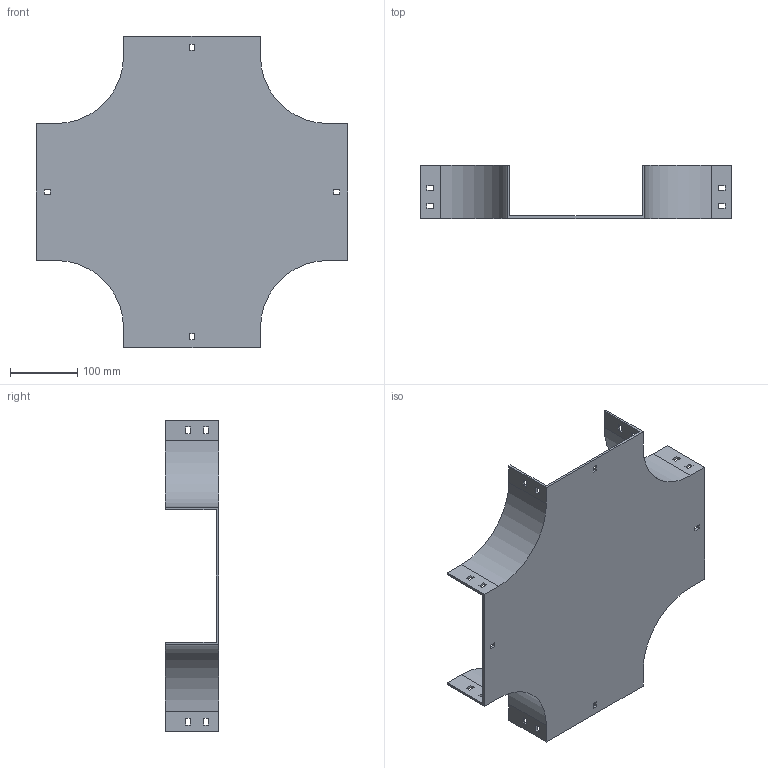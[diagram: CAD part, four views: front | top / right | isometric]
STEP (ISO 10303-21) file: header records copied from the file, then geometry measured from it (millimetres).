
FILE_DESCRIPTION (( 'STEP AP214' ), '1' );
FILE_NAME ('17F1C200.step', '2025-02-21T13:06:13', ( '' ), ( '' ), 'SwSTEP 2.0', 'SolidWorks 2023', '' );
FILE_SCHEMA (( 'AUTOMOTIVE_DESIGN' ));
Length unit declared in the file: millimetre
Products named in the file (1): 17F1C200
Bounding box: 464 x 79 x 464 mm (x, y, z)
Volume: 774600 mm3; surface area: 452975.7 mm2
Topology: 1 solids, 1 shells, 114 faces, 336 edges, 224 vertices
Faces by surface type: plane 106, cylinder 8
Entity records: 3839 total; most frequent: CARTESIAN_POINT 675, ORIENTED_EDGE 672, DIRECTION 582, EDGE_CURVE 336, VECTOR 320, LINE 320, VERTEX_POINT 224, EDGE_LOOP 154
